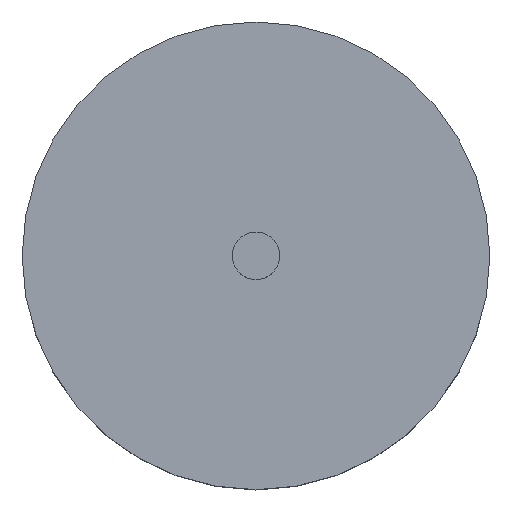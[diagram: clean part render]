
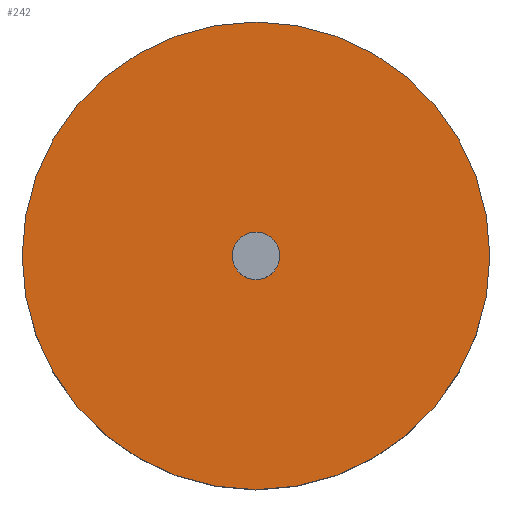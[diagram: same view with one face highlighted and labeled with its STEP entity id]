
A CAD part, top view. The second image highlights one B-rep face of the part: STEP entity #242.
In plain terms, the highlighted planar face has unit normal (0, 0, 1).
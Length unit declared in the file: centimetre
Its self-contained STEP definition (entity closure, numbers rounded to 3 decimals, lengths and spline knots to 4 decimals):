
#144=VERTEX_POINT('',#782);
#145=VERTEX_POINT('',#786);
#156=EDGE_CURVE('',#144,#144,#430,.T.);
#157=EDGE_CURVE('',#145,#145,#431,.T.);
#176=ORIENTED_EDGE('',*,*,#156,.T.);
#177=ORIENTED_EDGE('',*,*,#157,.F.);
#200=EDGE_LOOP('',(#176));
#201=EDGE_LOOP('',(#177));
#224=FACE_BOUND('',#200,.T.);
#225=FACE_BOUND('',#201,.T.);
#242=ADVANCED_FACE('',(#224,#225),#572,.T.);
#430=CIRCLE('',#540,0.127);
#431=CIRCLE('',#543,1.25);
#540=AXIS2_PLACEMENT_3D('',#781,#688,#689);
#543=AXIS2_PLACEMENT_3D('',#785,#693,#694);
#545=AXIS2_PLACEMENT_3D('',#789,#697,$);
#572=PLANE('',#545);
#688=DIRECTION('',(0.,0.,-1.));
#689=DIRECTION('',(0.127,0.,0.));
#693=DIRECTION('',(0.,0.,-1.));
#694=DIRECTION('',(1.25,0.,0.));
#697=DIRECTION('',(0.,0.,1.));
#781=CARTESIAN_POINT('',(0.,0.,0.9));
#782=CARTESIAN_POINT('',(0.127,0.,0.9));
#785=CARTESIAN_POINT('',(0.,0.,0.9));
#786=CARTESIAN_POINT('',(1.25,0.,0.9));
#789=CARTESIAN_POINT('',(0.,0.,0.9));
